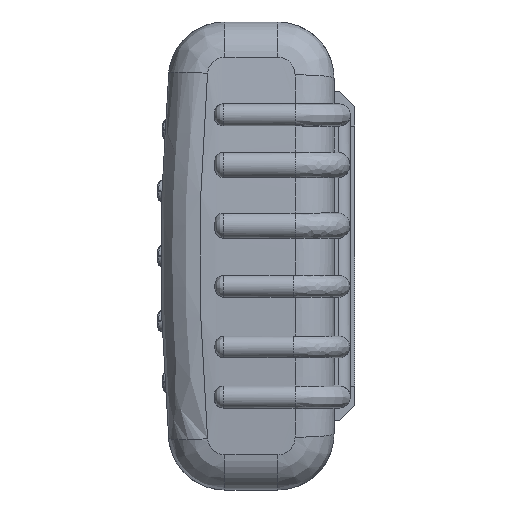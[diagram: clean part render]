
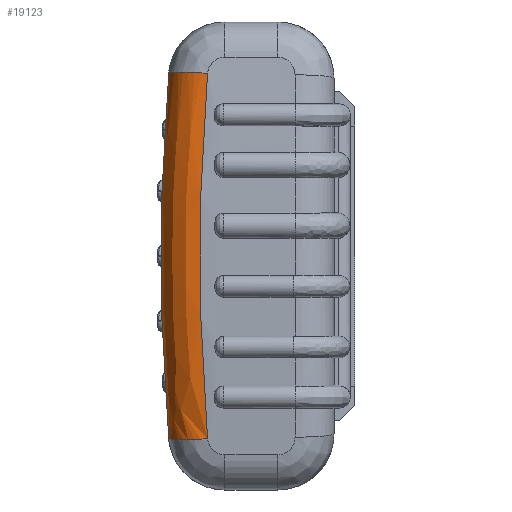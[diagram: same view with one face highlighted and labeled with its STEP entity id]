
A CAD part, left-side view. The second image highlights one B-rep face of the part: STEP entity #19123.
In plain terms, the highlighted free-form (B-spline) face has degree [3, 2] with [6, 3] control points.
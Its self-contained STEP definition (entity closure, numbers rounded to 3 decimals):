
#128 = CARTESIAN_POINT ( 'NONE',  ( 89.121, 30.941, 14.107 ) ) ;
#1243 = CARTESIAN_POINT ( 'NONE',  ( 89.121, 39.941, -14.469 ) ) ;
#3066 = CARTESIAN_POINT ( 'NONE',  ( 78.259, 38.156, -42.101 ) ) ;
#3457 = CIRCLE ( 'NONE', #13955, 9. ) ;
#3781 = DIRECTION ( 'NONE',  ( 0.09, 0.084, -0.992 ) ) ;
#4104 = CARTESIAN_POINT ( 'NONE',  ( 78.259, 29.188, -41.339 ) ) ;
#4142 = CARTESIAN_POINT ( 'NONE',  ( 87.222, 29.188, 42.148 ) ) ;
#5241 = CARTESIAN_POINT ( 'NONE',  ( 88.476, 30.346, -28.258 ) ) ;
#8092 = DIRECTION ( 'NONE',  ( 0.996, 0., -0.09 ) ) ;
#9259 = CARTESIAN_POINT ( 'NONE',  ( 79.489, 39.335, -28.227 ) ) ;
#10901 = CARTESIAN_POINT ( 'NONE',  ( 78.259, 38.156, 42.101 ) ) ;
#13055 = CARTESIAN_POINT ( 'NONE',  ( 88.476, 30.346, 28.258 ) ) ;
#13235 = CARTESIAN_POINT ( 'NONE',  ( 87.154, 38.088, -42.898 ) ) ;
#13501 = ORIENTED_EDGE ( 'NONE', *, *, #27396, .T. ) ;
#13955 = AXIS2_PLACEMENT_3D ( 'NONE', #4104, #31785, #8092 ) ;
#14505 = CIRCLE ( 'NONE', #44116, 9. ) ;
#15472 = VERTEX_POINT ( 'NONE', #28842 ) ;
#17032 = CARTESIAN_POINT ( 'NONE',  ( 79.489, 39.335, 28.227 ) ) ;
#19123 = ADVANCED_FACE ( 'NONE', ( #46422 ), #26292, .T. ) ;
#19456 = CARTESIAN_POINT ( 'NONE',  ( 87.222, 29.188, -42.148 ) ) ;
#20835 = CARTESIAN_POINT ( 'NONE',  ( 87.154, 38.088, 42.898 ) ) ;
#21011 = CARTESIAN_POINT ( 'NONE',  ( 89.121, 39.941, 14.469 ) ) ;
#21345 = ORIENTED_EDGE ( 'NONE', *, *, #38717, .F. ) ;
#22480 = CARTESIAN_POINT ( 'NONE',  ( 78.259, 38.156, 42.101 ) ) ;
#22809 = CARTESIAN_POINT ( 'NONE',  ( 80.121, 39.941, 14.101 ) ) ;
#23091 = B_SPLINE_CURVE_WITH_KNOTS ( 'NONE', 3,
 ( #31653, #47491, #23872, #128, #27884, #4142 ),
 .UNSPECIFIED., .F., .F.,
 ( 4, 2, 4 ),
 ( 0.004, 0.046, 0.088 ),
 .UNSPECIFIED. ) ;
#23806 = CARTESIAN_POINT ( 'NONE',  ( 78.259, 38.156, -42.101 ) ) ;
#23872 = CARTESIAN_POINT ( 'NONE',  ( 89.121, 30.941, -14.107 ) ) ;
#24967 = CARTESIAN_POINT ( 'NONE',  ( 89.121, 30.941, -14.212 ) ) ;
#26292 =( BOUNDED_SURFACE ( )  B_SPLINE_SURFACE ( 3, 2, ( 
 ( #32745, #20835, #36721 ),
 ( #13055, #40681, #17032 ),
 ( #44640, #21011, #48575 ),
 ( #24967, #1243, #28980 ),
 ( #5241, #32925, #9259 ),
 ( #36899, #13235, #40842 ) ),
 .UNSPECIFIED., .F., .F., .F. ) 
 B_SPLINE_SURFACE_WITH_KNOTS ( ( 4, 2, 4 ),
 ( 3, 3 ),
 ( 0.084, 0.125, 0.166 ),
 ( 0., 1. ),
 .UNSPECIFIED. ) 
 GEOMETRIC_REPRESENTATION_ITEM ( )  RATIONAL_B_SPLINE_SURFACE ( (
 ( 1., 0.71, 1.),
 ( 1., 0.708, 1.),
 ( 1., 0.707, 1.),
 ( 1., 0.707, 1.),
 ( 1., 0.708, 1.),
 ( 1., 0.71, 1.) ) ) 
 REPRESENTATION_ITEM ( '' )  SURFACE ( )  );
#26787 = CARTESIAN_POINT ( 'NONE',  ( 79.497, 39.343, -28.135 ) ) ;
#27396 = EDGE_CURVE ( 'NONE', #37996, #39208, #3457, .T. ) ;
#27518 = CARTESIAN_POINT ( 'NONE',  ( 78.259, 29.188, 41.339 ) ) ;
#27884 = CARTESIAN_POINT ( 'NONE',  ( 88.486, 30.354, 28.156 ) ) ;
#28643 = VERTEX_POINT ( 'NONE', #22480 ) ;
#28842 = CARTESIAN_POINT ( 'NONE',  ( 87.222, 29.188, 42.148 ) ) ;
#28980 = CARTESIAN_POINT ( 'NONE',  ( 80.121, 39.941, -14.196 ) ) ;
#31471 = DIRECTION ( 'NONE',  ( -0.996, 0., -0.09 ) ) ;
#31653 = CARTESIAN_POINT ( 'NONE',  ( 87.222, 29.188, -42.148 ) ) ;
#31785 = DIRECTION ( 'NONE',  ( 0.09, 0.084, 0.992 ) ) ;
#32745 = CARTESIAN_POINT ( 'NONE',  ( 87.222, 29.188, 42.148 ) ) ;
#32925 = CARTESIAN_POINT ( 'NONE',  ( 88.456, 39.314, -28.734 ) ) ;
#36721 = CARTESIAN_POINT ( 'NONE',  ( 78.259, 38.156, 42.101 ) ) ;
#36899 = CARTESIAN_POINT ( 'NONE',  ( 87.222, 29.188, -42.148 ) ) ;
#37996 = VERTEX_POINT ( 'NONE', #19456 ) ;
#38498 = CARTESIAN_POINT ( 'NONE',  ( 79.497, 39.343, 28.135 ) ) ;
#38538 = ORIENTED_EDGE ( 'NONE', *, *, #50709, .T. ) ;
#38717 = EDGE_CURVE ( 'NONE', #37996, #15472, #23091, .T. ) ;
#39092 = EDGE_CURVE ( 'NONE', #28643, #39208, #46792, .T. ) ;
#39208 = VERTEX_POINT ( 'NONE', #23806 ) ;
#40106 = EDGE_LOOP ( 'NONE', ( #21345, #13501, #50216, #38538 ) ) ;
#40681 = CARTESIAN_POINT ( 'NONE',  ( 88.456, 39.314, 28.734 ) ) ;
#40842 = CARTESIAN_POINT ( 'NONE',  ( 78.259, 38.156, -42.101 ) ) ;
#44116 = AXIS2_PLACEMENT_3D ( 'NONE', #27518, #3781, #31471 ) ;
#44640 = CARTESIAN_POINT ( 'NONE',  ( 89.121, 30.941, 14.212 ) ) ;
#46422 = FACE_OUTER_BOUND ( 'NONE', #40106, .T. ) ;
#46792 = B_SPLINE_CURVE_WITH_KNOTS ( 'NONE', 3,
 ( #10901, #38498, #22809, #50329, #26787, #3066 ),
 .UNSPECIFIED., .F., .F.,
 ( 4, 2, 4 ),
 ( 0.012, 0.054, 0.096 ),
 .UNSPECIFIED. ) ;
#47491 = CARTESIAN_POINT ( 'NONE',  ( 88.486, 30.354, -28.156 ) ) ;
#48575 = CARTESIAN_POINT ( 'NONE',  ( 80.121, 39.941, 14.196 ) ) ;
#50216 = ORIENTED_EDGE ( 'NONE', *, *, #39092, .F. ) ;
#50329 = CARTESIAN_POINT ( 'NONE',  ( 80.121, 39.941, -14.101 ) ) ;
#50709 = EDGE_CURVE ( 'NONE', #28643, #15472, #14505, .T. ) ;
